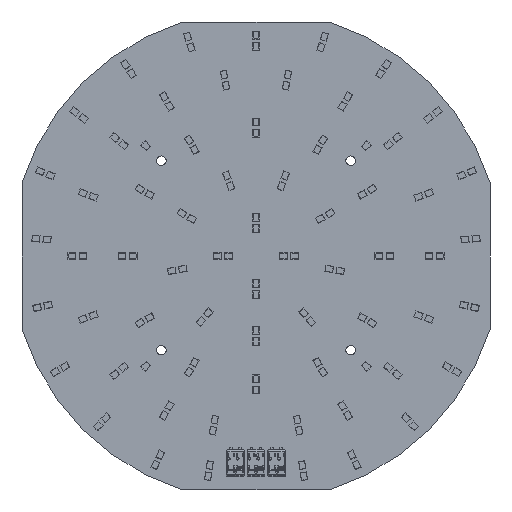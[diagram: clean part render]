
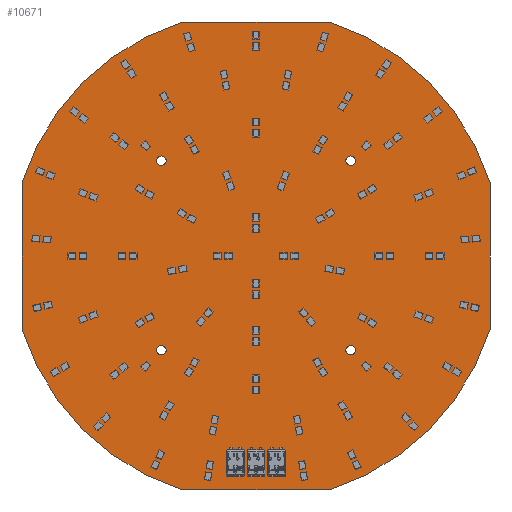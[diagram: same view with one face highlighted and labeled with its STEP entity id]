
A CAD part, front view. The second image highlights one B-rep face of the part: STEP entity #10671.
In plain terms, the highlighted planar face has unit normal (0, -1, 0).
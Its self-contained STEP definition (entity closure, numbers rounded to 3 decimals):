
#1098=CIRCLE('',#11113,110.);
#1100=CIRCLE('',#11117,110.);
#1102=CIRCLE('',#11121,110.);
#1105=CIRCLE('',#11126,2.15);
#1107=CIRCLE('',#11129,2.15);
#1109=CIRCLE('',#11132,2.15);
#1111=CIRCLE('',#11135,2.15);
#1112=CIRCLE('',#11137,110.);
#1420=ORIENTED_EDGE('',*,*,#3599,.T.);
#1421=ORIENTED_EDGE('',*,*,#3597,.T.);
#1422=ORIENTED_EDGE('',*,*,#3595,.T.);
#1423=ORIENTED_EDGE('',*,*,#3593,.T.);
#1424=ORIENTED_EDGE('',*,*,#3570,.F.);
#1425=ORIENTED_EDGE('',*,*,#3600,.F.);
#1426=ORIENTED_EDGE('',*,*,#3589,.F.);
#1427=ORIENTED_EDGE('',*,*,#3586,.F.);
#1428=ORIENTED_EDGE('',*,*,#3583,.F.);
#1429=ORIENTED_EDGE('',*,*,#3580,.F.);
#1430=ORIENTED_EDGE('',*,*,#3577,.F.);
#1431=ORIENTED_EDGE('',*,*,#3574,.F.);
#3570=EDGE_CURVE('',#4671,#4672,#5360,.T.);
#3574=EDGE_CURVE('',#4672,#4675,#1098,.T.);
#3577=EDGE_CURVE('',#4675,#4677,#5365,.T.);
#3580=EDGE_CURVE('',#4677,#4679,#1100,.T.);
#3583=EDGE_CURVE('',#4679,#4681,#5369,.T.);
#3586=EDGE_CURVE('',#4681,#4683,#1102,.T.);
#3589=EDGE_CURVE('',#4683,#4685,#5373,.T.);
#3593=EDGE_CURVE('',#4688,#4688,#1105,.T.);
#3595=EDGE_CURVE('',#4690,#4690,#1107,.T.);
#3597=EDGE_CURVE('',#4692,#4692,#1109,.T.);
#3599=EDGE_CURVE('',#4694,#4694,#1111,.T.);
#3600=EDGE_CURVE('',#4685,#4671,#1112,.T.);
#4671=VERTEX_POINT('',#13785);
#4672=VERTEX_POINT('',#13786);
#4675=VERTEX_POINT('',#13794);
#4677=VERTEX_POINT('',#13800);
#4679=VERTEX_POINT('',#13806);
#4681=VERTEX_POINT('',#13812);
#4683=VERTEX_POINT('',#13818);
#4685=VERTEX_POINT('',#13824);
#4688=VERTEX_POINT('',#13832);
#4690=VERTEX_POINT('',#13837);
#4692=VERTEX_POINT('',#13842);
#4694=VERTEX_POINT('',#13847);
#5360=LINE('',#13784,#5914);
#5365=LINE('',#13799,#5919);
#5369=LINE('',#13811,#5923);
#5373=LINE('',#13823,#5927);
#5914=VECTOR('',#11820,1000.);
#5919=VECTOR('',#11833,1000.);
#5923=VECTOR('',#11845,1000.);
#5927=VECTOR('',#11857,1000.);
#6489=EDGE_LOOP('',(#1420));
#6490=EDGE_LOOP('',(#1421));
#6491=EDGE_LOOP('',(#1422));
#6492=EDGE_LOOP('',(#1423));
#6493=EDGE_LOOP('',(#1424,#1425,#1426,#1427,#1428,#1429,#1430,#1431));
#6955=FACE_BOUND('',#6489,.T.);
#6956=FACE_BOUND('',#6490,.T.);
#6957=FACE_BOUND('',#6491,.T.);
#6958=FACE_BOUND('',#6492,.T.);
#6959=FACE_BOUND('',#6493,.T.);
#7405=PLANE('',#11140);
#10671=ADVANCED_FACE('',(#6955,#6956,#6957,#6958,#6959),#7405,.F.);
#11113=AXIS2_PLACEMENT_3D('',#13793,#11826,#11827);
#11117=AXIS2_PLACEMENT_3D('',#13805,#11838,#11839);
#11121=AXIS2_PLACEMENT_3D('',#13817,#11850,#11851);
#11126=AXIS2_PLACEMENT_3D('',#13831,#11864,#11865);
#11129=AXIS2_PLACEMENT_3D('',#13836,#11870,#11871);
#11132=AXIS2_PLACEMENT_3D('',#13841,#11876,#11877);
#11135=AXIS2_PLACEMENT_3D('',#13846,#11882,#11883);
#11137=AXIS2_PLACEMENT_3D('',#13849,#11886,#11887);
#11140=AXIS2_PLACEMENT_3D('',#13852,#11892,#11893);
#11820=DIRECTION('',(-1.,0.,0.));
#11826=DIRECTION('',(0.,1.,0.));
#11827=DIRECTION('',(1.,0.,0.));
#11833=DIRECTION('',(0.,0.,1.));
#11838=DIRECTION('',(0.,1.,0.));
#11839=DIRECTION('',(1.,0.,0.));
#11845=DIRECTION('',(1.,0.,0.));
#11850=DIRECTION('',(0.,1.,0.));
#11851=DIRECTION('',(1.,0.,0.));
#11857=DIRECTION('',(0.,0.,-1.));
#11864=DIRECTION('',(0.,1.,0.));
#11865=DIRECTION('',(1.,0.,0.));
#11870=DIRECTION('',(0.,1.,0.));
#11871=DIRECTION('',(1.,0.,0.));
#11876=DIRECTION('',(0.,1.,0.));
#11877=DIRECTION('',(1.,0.,0.));
#11882=DIRECTION('',(0.,1.,0.));
#11883=DIRECTION('',(1.,0.,0.));
#11886=DIRECTION('',(0.,1.,0.));
#11887=DIRECTION('',(1.,0.,0.));
#11892=DIRECTION('',(0.,1.,0.));
#11893=DIRECTION('',(0.,0.,1.));
#13784=CARTESIAN_POINT('',(-32.787,0.,-105.));
#13785=CARTESIAN_POINT('',(32.787,0.,-105.));
#13786=CARTESIAN_POINT('',(-32.787,0.,-105.));
#13793=CARTESIAN_POINT('',(0.,0.,0.));
#13794=CARTESIAN_POINT('',(-105.,0.,-32.787));
#13799=CARTESIAN_POINT('',(-105.,0.,32.787));
#13800=CARTESIAN_POINT('',(-105.,0.,32.787));
#13805=CARTESIAN_POINT('',(0.,0.,0.));
#13806=CARTESIAN_POINT('',(-32.787,0.,105.));
#13811=CARTESIAN_POINT('',(32.787,0.,105.));
#13812=CARTESIAN_POINT('',(32.787,0.,105.));
#13817=CARTESIAN_POINT('',(0.,0.,0.));
#13818=CARTESIAN_POINT('',(105.,0.,32.787));
#13823=CARTESIAN_POINT('',(105.,0.,-32.787));
#13824=CARTESIAN_POINT('',(105.,0.,-32.787));
#13831=CARTESIAN_POINT('',(-42.5,0.,42.734));
#13832=CARTESIAN_POINT('',(-40.35,0.,42.734));
#13836=CARTESIAN_POINT('',(42.5,0.,42.734));
#13837=CARTESIAN_POINT('',(44.65,0.,42.734));
#13841=CARTESIAN_POINT('',(42.5,0.,-42.266));
#13842=CARTESIAN_POINT('',(44.65,0.,-42.266));
#13846=CARTESIAN_POINT('',(-42.5,0.,-42.266));
#13847=CARTESIAN_POINT('',(-40.35,0.,-42.266));
#13849=CARTESIAN_POINT('',(0.,0.,0.));
#13852=CARTESIAN_POINT('',(0.,0.,0.));
